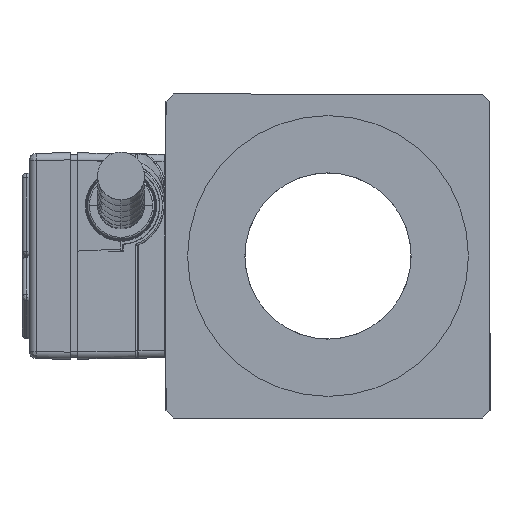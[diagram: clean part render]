
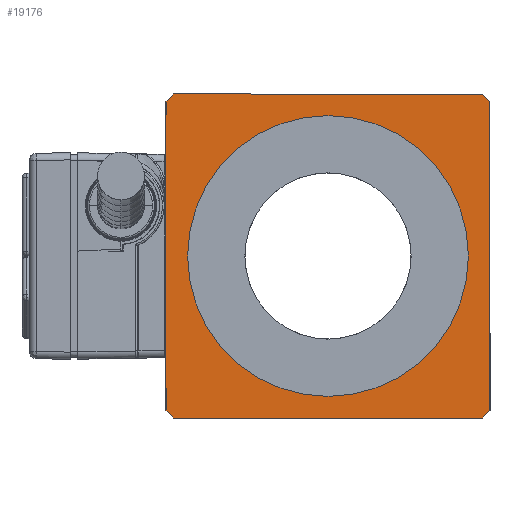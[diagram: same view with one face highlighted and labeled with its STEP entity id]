
A CAD part, left-side view. The second image highlights one B-rep face of the part: STEP entity #19176.
In plain terms, the highlighted planar face has unit normal (-1, 0, 0).
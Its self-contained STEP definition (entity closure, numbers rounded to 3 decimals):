
#35 = CARTESIAN_POINT ( 'NONE',  ( 0., 0., -19.5 ) ) ;
#834 = CIRCLE ( 'NONE', #3494, 19.5 ) ;
#903 = LINE ( 'NONE', #3846, #25084 ) ;
#1022 = EDGE_CURVE ( 'NONE', #32019, #26985, #16922, .T. ) ;
#2912 = VECTOR ( 'NONE', #16902, 1000. ) ;
#3035 = ORIENTED_EDGE ( 'NONE', *, *, #37321, .F. ) ;
#3129 = VECTOR ( 'NONE', #7752, 1000. ) ;
#3494 = AXIS2_PLACEMENT_3D ( 'NONE', #38907, #19238, #42229 ) ;
#3846 = CARTESIAN_POINT ( 'NONE',  ( 0., -22.5, 22.5 ) ) ;
#4603 = LINE ( 'NONE', #26479, #21007 ) ;
#7110 = DIRECTION ( 'NONE',  ( 0., 0., -1. ) ) ;
#7563 = CARTESIAN_POINT ( 'NONE',  ( 0., 22.5, -22.5 ) ) ;
#7752 = DIRECTION ( 'NONE',  ( 0., 0., 1. ) ) ;
#8094 = DIRECTION ( 'NONE',  ( 0., 0.707, 0.707 ) ) ;
#8333 = CARTESIAN_POINT ( 'NONE',  ( 0., -22.5, 21.5 ) ) ;
#8687 = ORIENTED_EDGE ( 'NONE', *, *, #32202, .F. ) ;
#10033 = VECTOR ( 'NONE', #37436, 1000. ) ;
#10107 = ORIENTED_EDGE ( 'NONE', *, *, #31721, .T. ) ;
#10307 = DIRECTION ( 'NONE',  ( 0., 0.707, -0.707 ) ) ;
#10894 = DIRECTION ( 'NONE',  ( 0., 0., 1. ) ) ;
#11653 = VERTEX_POINT ( 'NONE', #21456 ) ;
#12248 = EDGE_CURVE ( 'NONE', #30061, #13723, #22860, .T. ) ;
#13254 = ORIENTED_EDGE ( 'NONE', *, *, #27158, .F. ) ;
#13319 = CARTESIAN_POINT ( 'NONE',  ( 0., 22.5, -21.5 ) ) ;
#13723 = VERTEX_POINT ( 'NONE', #15331 ) ;
#14154 = VECTOR ( 'NONE', #8094, 1000. ) ;
#14455 = AXIS2_PLACEMENT_3D ( 'NONE', #7563, #30520, #10894 ) ;
#14479 = CARTESIAN_POINT ( 'NONE',  ( 0., 22., -22. ) ) ;
#15331 = CARTESIAN_POINT ( 'NONE',  ( 0., -21.5, 22.5 ) ) ;
#15679 = EDGE_LOOP ( 'NONE', ( #36578, #10107, #25405, #27394, #13254, #39363, #37644, #20276 ) ) ;
#15901 = CIRCLE ( 'NONE', #40262, 19.5 ) ;
#16182 = DIRECTION ( 'NONE',  ( -1., 0., 0. ) ) ;
#16719 = CARTESIAN_POINT ( 'NONE',  ( 0., -22.5, -21.5 ) ) ;
#16902 = DIRECTION ( 'NONE',  ( 0., -0.707, 0.707 ) ) ;
#16922 = LINE ( 'NONE', #33215, #24669 ) ;
#18453 = CARTESIAN_POINT ( 'NONE',  ( 0., 21.5, 22.5 ) ) ;
#19176 = ADVANCED_FACE ( 'NONE', ( #28700, #36371 ), #36973, .T. ) ;
#19238 = DIRECTION ( 'NONE',  ( -1., 0., 0. ) ) ;
#20276 = ORIENTED_EDGE ( 'NONE', *, *, #21771, .T. ) ;
#21007 = VECTOR ( 'NONE', #23122, 1000. ) ;
#21075 = CARTESIAN_POINT ( 'NONE',  ( 0., 22.5, 22.5 ) ) ;
#21125 = CARTESIAN_POINT ( 'NONE',  ( 0., -22., 22. ) ) ;
#21456 = CARTESIAN_POINT ( 'NONE',  ( 0., 21.5, -22.5 ) ) ;
#21771 = EDGE_CURVE ( 'NONE', #26027, #11653, #28542, .T. ) ;
#22163 = VERTEX_POINT ( 'NONE', #35 ) ;
#22860 = LINE ( 'NONE', #21125, #14154 ) ;
#23122 = DIRECTION ( 'NONE',  ( 0., 1., 0. ) ) ;
#23787 = EDGE_CURVE ( 'NONE', #26027, #26985, #28323, .T. ) ;
#24322 = VERTEX_POINT ( 'NONE', #40120 ) ;
#24669 = VECTOR ( 'NONE', #10307, 1000. ) ;
#24838 = EDGE_CURVE ( 'NONE', #30061, #28344, #903, .T. ) ;
#25084 = VECTOR ( 'NONE', #7110, 1000. ) ;
#25272 = VECTOR ( 'NONE', #39193, 1000. ) ;
#25405 = ORIENTED_EDGE ( 'NONE', *, *, #24838, .F. ) ;
#26027 = VERTEX_POINT ( 'NONE', #13319 ) ;
#26479 = CARTESIAN_POINT ( 'NONE',  ( 0., -22.5, -22.5 ) ) ;
#26985 = VERTEX_POINT ( 'NONE', #27933 ) ;
#27158 = EDGE_CURVE ( 'NONE', #32019, #13723, #33938, .T. ) ;
#27394 = ORIENTED_EDGE ( 'NONE', *, *, #12248, .T. ) ;
#27787 = EDGE_CURVE ( 'NONE', #39665, #11653, #4603, .T. ) ;
#27933 = CARTESIAN_POINT ( 'NONE',  ( 0., 22.5, 21.5 ) ) ;
#28323 = LINE ( 'NONE', #21075, #3129 ) ;
#28344 = VERTEX_POINT ( 'NONE', #16719 ) ;
#28542 = LINE ( 'NONE', #14479, #10033 ) ;
#28700 = FACE_OUTER_BOUND ( 'NONE', #15679, .T. ) ;
#29545 = EDGE_LOOP ( 'NONE', ( #3035, #8687 ) ) ;
#30061 = VERTEX_POINT ( 'NONE', #8333 ) ;
#30520 = DIRECTION ( 'NONE',  ( -1., 0., 0. ) ) ;
#31721 = EDGE_CURVE ( 'NONE', #39665, #28344, #36791, .T. ) ;
#32019 = VERTEX_POINT ( 'NONE', #18453 ) ;
#32202 = EDGE_CURVE ( 'NONE', #22163, #24322, #834, .T. ) ;
#33215 = CARTESIAN_POINT ( 'NONE',  ( 0., 44.5, -0.5 ) ) ;
#33938 = LINE ( 'NONE', #35934, #25272 ) ;
#35843 = CARTESIAN_POINT ( 'NONE',  ( 0., 0., 0. ) ) ;
#35934 = CARTESIAN_POINT ( 'NONE',  ( 0., -22.5, 22.5 ) ) ;
#36371 = FACE_BOUND ( 'NONE', #29545, .T. ) ;
#36578 = ORIENTED_EDGE ( 'NONE', *, *, #27787, .F. ) ;
#36791 = LINE ( 'NONE', #39555, #2912 ) ;
#36973 = PLANE ( 'NONE',  #14455 ) ;
#37321 = EDGE_CURVE ( 'NONE', #24322, #22163, #15901, .T. ) ;
#37436 = DIRECTION ( 'NONE',  ( 0., -0.707, -0.707 ) ) ;
#37541 = CARTESIAN_POINT ( 'NONE',  ( 0., -21.5, -22.5 ) ) ;
#37644 = ORIENTED_EDGE ( 'NONE', *, *, #23787, .F. ) ;
#38907 = CARTESIAN_POINT ( 'NONE',  ( 0., 0., 0. ) ) ;
#39096 = DIRECTION ( 'NONE',  ( 0., 0., 1. ) ) ;
#39193 = DIRECTION ( 'NONE',  ( 0., -1., 0. ) ) ;
#39363 = ORIENTED_EDGE ( 'NONE', *, *, #1022, .T. ) ;
#39555 = CARTESIAN_POINT ( 'NONE',  ( 0., 0.5, -44.5 ) ) ;
#39665 = VERTEX_POINT ( 'NONE', #37541 ) ;
#40120 = CARTESIAN_POINT ( 'NONE',  ( 0., 0., 19.5 ) ) ;
#40262 = AXIS2_PLACEMENT_3D ( 'NONE', #35843, #16182, #39096 ) ;
#42229 = DIRECTION ( 'NONE',  ( 0., 0., 1. ) ) ;
